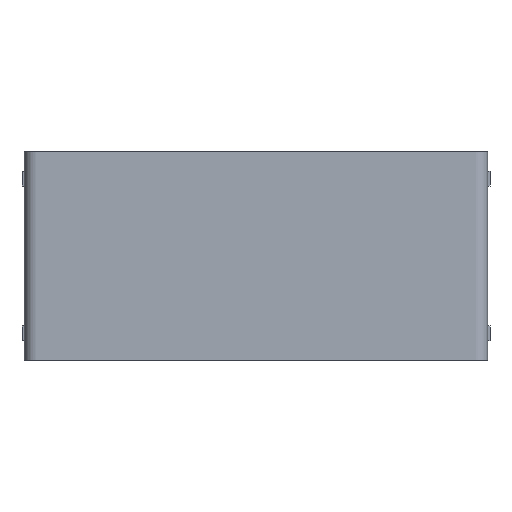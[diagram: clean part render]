
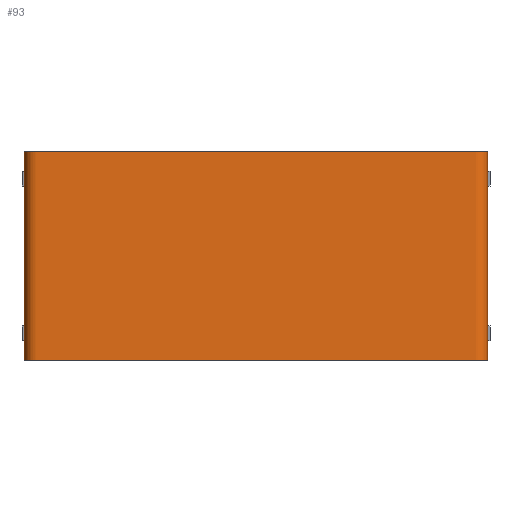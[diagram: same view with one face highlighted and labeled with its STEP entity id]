
A CAD part, top view. The second image highlights one B-rep face of the part: STEP entity #93.
In plain terms, the highlighted free-form (B-spline) face has degree [2, 1] with [9, 2] control points.
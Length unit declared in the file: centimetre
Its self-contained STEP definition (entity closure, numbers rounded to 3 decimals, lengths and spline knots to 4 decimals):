
#93=ADVANCED_FACE($,(#241),#1828,.T.);
#241=FACE_OUTER_BOUND($,#393,.T.);
#393=EDGE_LOOP($,(#659,#660,#661,#662));
#659=ORIENTED_EDGE($,*,*,#1233,.T.);
#660=ORIENTED_EDGE($,*,*,#1229,.T.);
#661=ORIENTED_EDGE($,*,*,#1223,.F.);
#662=ORIENTED_EDGE($,*,*,#1225,.F.);
#1223=EDGE_CURVE($,#1520,#1521,#1861,.T.);
#1225=EDGE_CURVE($,#1522,#1520,#2146,.T.);
#1229=EDGE_CURVE($,#1526,#1521,#2148,.T.);
#1233=EDGE_CURVE($,#1522,#1526,#1867,.T.);
#1520=VERTEX_POINT($,#3141);
#1521=VERTEX_POINT($,#3142);
#1522=VERTEX_POINT($,#3143);
#1526=VERTEX_POINT($,#3147);
#1828=(
BOUNDED_SURFACE()
B_SPLINE_SURFACE(2,1,((#3097,#3098),(#3099,#3100),(#3101,#3102),(#3103,#3104),
(#3105,#3106),(#3107,#3108),(#3109,#3110),(#3111,#3112),(#3113,#3114)),.UNSPECIFIED.,
.F.,.F.,.F.)
B_SPLINE_SURFACE_WITH_KNOTS((3,2,2,2,3),(2,2),(-244.4058,-240.1646,
-145.5646,-141.3235,-129.0235),(0.,45.),.UNSPECIFIED.)
GEOMETRIC_REPRESENTATION_ITEM()
RATIONAL_B_SPLINE_SURFACE(((1.,1.),(0.707,0.707),
(1.,1.),(1.,1.),(1.,1.),(0.707,0.707),(1.,1.),(1.,
1.),(1.,1.)))
REPRESENTATION_ITEM($)
SURFACE()
);
#1861=B_SPLINE_CURVE_WITH_KNOTS($,1,(#3036,#3037),.UNSPECIFIED.,.F.,.F.,
(2,2),(0.,45.),.UNSPECIFIED.);
#1867=B_SPLINE_CURVE_WITH_KNOTS($,1,(#3088,#3089),.UNSPECIFIED.,.F.,.F.,
(2,2),(0.,45.),.UNSPECIFIED.);
#2146=(
BOUNDED_CURVE()
B_SPLINE_CURVE(2,(#3040,#3041,#3042,#3043,#3044,#3045,#3046,#3047,#3048),
.UNSPECIFIED.,.F.,.F.)
B_SPLINE_CURVE_WITH_KNOTS((3,2,2,2,3),(129.0235,141.3235,
145.5646,240.1646,244.4058),.UNSPECIFIED.)
CURVE()
GEOMETRIC_REPRESENTATION_ITEM()
RATIONAL_B_SPLINE_CURVE((1.,1.,1.,0.707,1.,1.,1.,0.707,
1.))
REPRESENTATION_ITEM($)
);
#2148=(
BOUNDED_CURVE()
B_SPLINE_CURVE(2,(#3064,#3065,#3066,#3067,#3068,#3069,#3070,#3071,#3072),
.UNSPECIFIED.,.F.,.F.)
B_SPLINE_CURVE_WITH_KNOTS((3,2,2,2,3),(129.0235,141.3235,
145.5646,240.1646,244.4058),.UNSPECIFIED.)
CURVE()
GEOMETRIC_REPRESENTATION_ITEM()
RATIONAL_B_SPLINE_CURVE((1.,1.,1.,0.707,1.,1.,1.,0.707,
1.))
REPRESENTATION_ITEM($)
);
#3036=CARTESIAN_POINT($,(1.,0.,39.3));
#3037=CARTESIAN_POINT($,(1.,45.,39.3));
#3040=CARTESIAN_POINT($,(101.,0.,27.));
#3041=CARTESIAN_POINT($,(101.,0.,33.15));
#3042=CARTESIAN_POINT($,(101.,0.,39.3));
#3043=CARTESIAN_POINT($,(101.,0.,42.));
#3044=CARTESIAN_POINT($,(98.3,0.,42.));
#3045=CARTESIAN_POINT($,(51.,0.,42.));
#3046=CARTESIAN_POINT($,(3.7,0.,42.));
#3047=CARTESIAN_POINT($,(1.,0.,42.));
#3048=CARTESIAN_POINT($,(1.,0.,39.3));
#3064=CARTESIAN_POINT($,(101.,45.,27.));
#3065=CARTESIAN_POINT($,(101.,45.,33.15));
#3066=CARTESIAN_POINT($,(101.,45.,39.3));
#3067=CARTESIAN_POINT($,(101.,45.,42.));
#3068=CARTESIAN_POINT($,(98.3,45.,42.));
#3069=CARTESIAN_POINT($,(51.,45.,42.));
#3070=CARTESIAN_POINT($,(3.7,45.,42.));
#3071=CARTESIAN_POINT($,(1.,45.,42.));
#3072=CARTESIAN_POINT($,(1.,45.,39.3));
#3088=CARTESIAN_POINT($,(101.,0.,27.));
#3089=CARTESIAN_POINT($,(101.,45.,27.));
#3097=CARTESIAN_POINT($,(1.,0.,39.3));
#3098=CARTESIAN_POINT($,(1.,45.,39.3));
#3099=CARTESIAN_POINT($,(1.,0.,42.));
#3100=CARTESIAN_POINT($,(1.,45.,42.));
#3101=CARTESIAN_POINT($,(3.7,0.,42.));
#3102=CARTESIAN_POINT($,(3.7,45.,42.));
#3103=CARTESIAN_POINT($,(51.,0.,42.));
#3104=CARTESIAN_POINT($,(51.,45.,42.));
#3105=CARTESIAN_POINT($,(98.3,0.,42.));
#3106=CARTESIAN_POINT($,(98.3,45.,42.));
#3107=CARTESIAN_POINT($,(101.,0.,42.));
#3108=CARTESIAN_POINT($,(101.,45.,42.));
#3109=CARTESIAN_POINT($,(101.,0.,39.3));
#3110=CARTESIAN_POINT($,(101.,45.,39.3));
#3111=CARTESIAN_POINT($,(101.,0.,33.15));
#3112=CARTESIAN_POINT($,(101.,45.,33.15));
#3113=CARTESIAN_POINT($,(101.,0.,27.));
#3114=CARTESIAN_POINT($,(101.,45.,27.));
#3141=CARTESIAN_POINT($,(1.,0.,39.3));
#3142=CARTESIAN_POINT($,(1.,45.,39.3));
#3143=CARTESIAN_POINT($,(101.,0.,27.));
#3147=CARTESIAN_POINT($,(101.,45.,27.));
